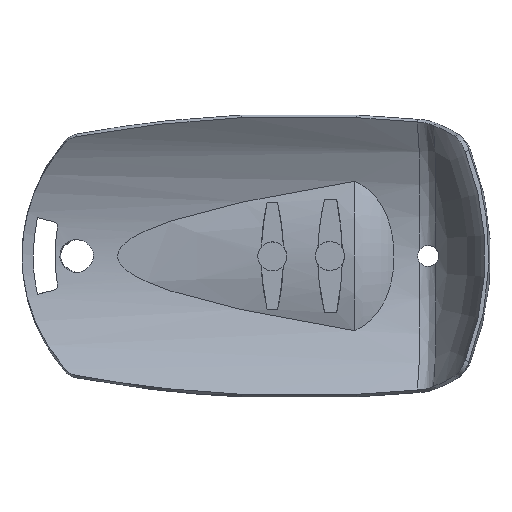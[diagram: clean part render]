
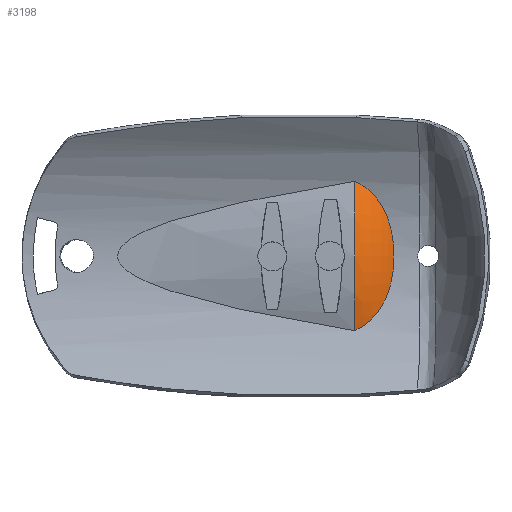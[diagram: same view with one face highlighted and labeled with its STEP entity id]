
A CAD part, front view. The second image highlights one B-rep face of the part: STEP entity #3198.
In plain terms, the highlighted toroidal (fillet/blend) face has major radius 21.661 mm and minor radius 11.1 mm.
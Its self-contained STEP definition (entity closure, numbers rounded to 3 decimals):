
#132 = CARTESIAN_POINT ( 'NONE',  ( 13.802, 14.269, -10.304 ) ) ;
#153 = CARTESIAN_POINT ( 'NONE',  ( 17.796, 15.387, -6.494 ) ) ;
#175 = CARTESIAN_POINT ( 'NONE',  ( 18.452, 15.677, 5.101 ) ) ;
#234 = DIRECTION ( 'NONE',  ( 0., 0., -1. ) ) ;
#257 = DIRECTION ( 'NONE',  ( 1., 0., 0. ) ) ;
#276 = DIRECTION ( 'NONE',  ( 0., 0., -1. ) ) ;
#574 = CARTESIAN_POINT ( 'NONE',  ( 18.453, 15.678, -5.098 ) ) ;
#593 = CARTESIAN_POINT ( 'NONE',  ( 17.025, 15.068, 7.827 ) ) ;
#624 = EDGE_CURVE ( 'NONE', #2037, #4272, #4725, .T. ) ;
#973 = CARTESIAN_POINT ( 'NONE',  ( 14.729, 14.434, -9.847 ) ) ;
#990 = CARTESIAN_POINT ( 'NONE',  ( 19.041, 15.993, -2.583 ) ) ;
#1006 = CARTESIAN_POINT ( 'NONE',  ( 15.563, 14.629, 9.267 ) ) ;
#1232 = CIRCLE ( 'NONE', #4989, 32.33 ) ;
#1416 = CARTESIAN_POINT ( 'NONE',  ( 15.558, 14.632, -9.255 ) ) ;
#1437 = CARTESIAN_POINT ( 'NONE',  ( 19.205, 16.087, -1.032 ) ) ;
#1455 = CARTESIAN_POINT ( 'NONE',  ( 14.282, 14.344, 10.097 ) ) ;
#1641 = ORIENTED_EDGE ( 'NONE', *, *, #5350, .T. ) ;
#1838 = CARTESIAN_POINT ( 'NONE',  ( 16.135, 14.793, -8.746 ) ) ;
#1854 = CARTESIAN_POINT ( 'NONE',  ( 19.228, 16.1, 0.519 ) ) ;
#2037 = VERTEX_POINT ( 'NONE', #3367 ) ;
#2263 = CARTESIAN_POINT ( 'NONE',  ( 16.987, 15.069, -7.795 ) ) ;
#2282 = CARTESIAN_POINT ( 'NONE',  ( 19.111, 16.033, 2.074 ) ) ;
#2699 = CARTESIAN_POINT ( 'NONE',  ( 17.546, 15.284, -6.942 ) ) ;
#2717 = CARTESIAN_POINT ( 'NONE',  ( 18.747, 15.833, 4.119 ) ) ;
#2781 = DIRECTION ( 'NONE',  ( 1., 0., 0. ) ) ;
#2823 = CARTESIAN_POINT ( 'NONE',  ( 10.739, 44.913, 0. ) ) ;
#2824 = TOROIDAL_SURFACE ( 'NONE', #3257, 21.661, 11.1 ) ;
#3126 = CARTESIAN_POINT ( 'NONE',  ( 17.913, 15.438, -6.263 ) ) ;
#3143 = CARTESIAN_POINT ( 'NONE',  ( 17.582, 15.29, 6.976 ) ) ;
#3198 = ADVANCED_FACE ( 'NONE', ( #5029 ), #2824, .T. ) ;
#3257 = AXIS2_PLACEMENT_3D ( 'NONE', #2823, #257, #276 ) ;
#3367 = CARTESIAN_POINT ( 'NONE',  ( 13.802, 14.269, -10.304 ) ) ;
#3527 = CARTESIAN_POINT ( 'NONE',  ( 14.282, 14.344, -10.097 ) ) ;
#3541 = CARTESIAN_POINT ( 'NONE',  ( 18.748, 15.833, -4.116 ) ) ;
#3562 = CARTESIAN_POINT ( 'NONE',  ( 15.95, 14.736, 8.937 ) ) ;
#3564 = ORIENTED_EDGE ( 'NONE', *, *, #624, .T. ) ;
#3930 = CARTESIAN_POINT ( 'NONE',  ( 15.356, 14.581, -9.411 ) ) ;
#3948 = CARTESIAN_POINT ( 'NONE',  ( 19.112, 16.033, -2.064 ) ) ;
#3970 = CARTESIAN_POINT ( 'NONE',  ( 14.729, 14.434, 9.847 ) ) ;
#4272 = VERTEX_POINT ( 'NONE', #4348 ) ;
#4340 = CARTESIAN_POINT ( 'NONE',  ( 15.947, 14.738, -8.923 ) ) ;
#4348 = CARTESIAN_POINT ( 'NONE',  ( 13.802, 14.269, 10.304 ) ) ;
#4361 = CARTESIAN_POINT ( 'NONE',  ( 19.228, 16.1, -0.515 ) ) ;
#4383 = CARTESIAN_POINT ( 'NONE',  ( 13.802, 14.269, 10.304 ) ) ;
#4725 = B_SPLINE_CURVE_WITH_KNOTS ( 'NONE', 3,
 ( #132, #3527, #973, #3930, #1416, #4340, #1838, #4775, #2263, #5199, #2699, #153, #3126, #574, #3541, #990, #3948, #1437, #4361, #1854, #4792, #2282, #5212, #2717, #175, #3143, #593, #3562, #1006, #3970, #1455, #4383 ),
 .UNSPECIFIED., .F., .F.,
 ( 4, 2, 2, 2, 2, 2, 2, 2, 2, 2, 2, 2, 2, 2, 2, 4 ),
 ( 0., 0.002, 0.002, 0.003, 0.005, 0.005, 0.006, 0.009, 0.011, 0.012, 0.014, 0.016, 0.019, 0.022, 0.023, 0.025 ),
 .UNSPECIFIED. ) ;
#4729 = EDGE_LOOP ( 'NONE', ( #3564, #1641 ) ) ;
#4775 = CARTESIAN_POINT ( 'NONE',  ( 16.67, 14.958, -8.193 ) ) ;
#4792 = CARTESIAN_POINT ( 'NONE',  ( 19.205, 16.087, 1.037 ) ) ;
#4989 = AXIS2_PLACEMENT_3D ( 'NONE', #5276, #2781, #234 ) ;
#5029 = FACE_OUTER_BOUND ( 'NONE', #4729, .T. ) ;
#5199 = CARTESIAN_POINT ( 'NONE',  ( 17.412, 15.231, -7.16 ) ) ;
#5212 = CARTESIAN_POINT ( 'NONE',  ( 19.039, 15.992, 2.594 ) ) ;
#5276 = CARTESIAN_POINT ( 'NONE',  ( 13.802, 44.913, 0. ) ) ;
#5350 = EDGE_CURVE ( 'NONE', #4272, #2037, #1232, .T. ) ;
